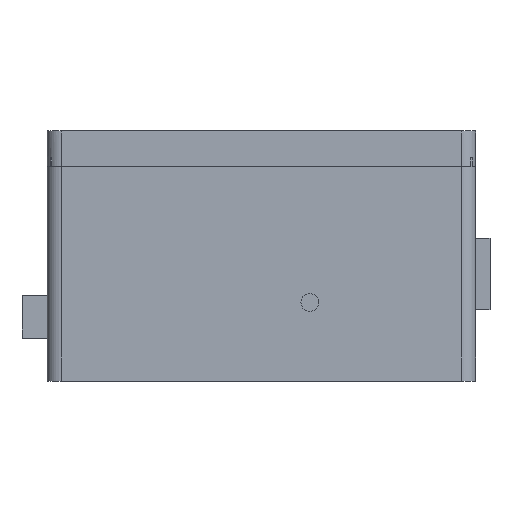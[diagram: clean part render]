
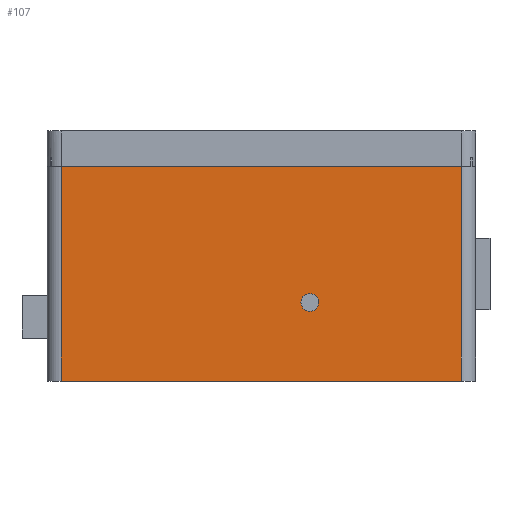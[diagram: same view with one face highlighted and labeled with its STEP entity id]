
A CAD part, left-side view. The second image highlights one B-rep face of the part: STEP entity #107.
In plain terms, the highlighted planar face has unit normal (-1, 0, 0).
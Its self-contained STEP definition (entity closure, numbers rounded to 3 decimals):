
#107 = ADVANCED_FACE('',(#108,#227),#122,.F.);
#108 = FACE_BOUND('',#109,.F.);
#109 = EDGE_LOOP('',(#110,#145,#173,#201));
#110 = ORIENTED_EDGE('',*,*,#111,.F.);
#111 = EDGE_CURVE('',#112,#114,#116,.T.);
#112 = VERTEX_POINT('',#113);
#113 = CARTESIAN_POINT('',(-110.,-56.,60.));
#114 = VERTEX_POINT('',#115);
#115 = CARTESIAN_POINT('',(-110.,56.,60.));
#116 = SURFACE_CURVE('',#117,(#121,#133),.PCURVE_S1.);
#117 = LINE('',#118,#119);
#118 = CARTESIAN_POINT('',(-110.,-60.,60.));
#119 = VECTOR('',#120,1.);
#120 = DIRECTION('',(0.,1.,0.));
#121 = PCURVE('',#122,#127);
#122 = PLANE('',#123);
#123 = AXIS2_PLACEMENT_3D('',#124,#125,#126);
#124 = CARTESIAN_POINT('',(-110.,-60.,0.));
#125 = DIRECTION('',(1.,0.,0.));
#126 = DIRECTION('',(0.,0.,1.));
#127 = DEFINITIONAL_REPRESENTATION('',(#128),#132);
#128 = LINE('',#129,#130);
#129 = CARTESIAN_POINT('',(60.,0.));
#130 = VECTOR('',#131,1.);
#131 = DIRECTION('',(0.,-1.));
#132 = ( GEOMETRIC_REPRESENTATION_CONTEXT(2) 
PARAMETRIC_REPRESENTATION_CONTEXT() REPRESENTATION_CONTEXT('2D SPACE',''
  ) );
#133 = PCURVE('',#134,#139);
#134 = PLANE('',#135);
#135 = AXIS2_PLACEMENT_3D('',#136,#137,#138);
#136 = CARTESIAN_POINT('',(-110.,-60.,60.));
#137 = DIRECTION('',(0.,0.,1.));
#138 = DIRECTION('',(1.,0.,0.));
#139 = DEFINITIONAL_REPRESENTATION('',(#140),#144);
#140 = LINE('',#141,#142);
#141 = CARTESIAN_POINT('',(0.,0.));
#142 = VECTOR('',#143,1.);
#143 = DIRECTION('',(0.,1.));
#144 = ( GEOMETRIC_REPRESENTATION_CONTEXT(2) 
PARAMETRIC_REPRESENTATION_CONTEXT() REPRESENTATION_CONTEXT('2D SPACE',''
  ) );
#145 = ORIENTED_EDGE('',*,*,#146,.F.);
#146 = EDGE_CURVE('',#147,#112,#149,.T.);
#147 = VERTEX_POINT('',#148);
#148 = CARTESIAN_POINT('',(-110.,-56.,0.));
#149 = SURFACE_CURVE('',#150,(#154,#161),.PCURVE_S1.);
#150 = LINE('',#151,#152);
#151 = CARTESIAN_POINT('',(-110.,-56.,0.));
#152 = VECTOR('',#153,1.);
#153 = DIRECTION('',(0.,0.,1.));
#154 = PCURVE('',#122,#155);
#155 = DEFINITIONAL_REPRESENTATION('',(#156),#160);
#156 = LINE('',#157,#158);
#157 = CARTESIAN_POINT('',(0.,-4.));
#158 = VECTOR('',#159,1.);
#159 = DIRECTION('',(1.,0.));
#160 = ( GEOMETRIC_REPRESENTATION_CONTEXT(2) 
PARAMETRIC_REPRESENTATION_CONTEXT() REPRESENTATION_CONTEXT('2D SPACE',''
  ) );
#161 = PCURVE('',#162,#167);
#162 = CYLINDRICAL_SURFACE('',#163,4.);
#163 = AXIS2_PLACEMENT_3D('',#164,#165,#166);
#164 = CARTESIAN_POINT('',(-106.,-56.,0.));
#165 = DIRECTION('',(0.,0.,1.));
#166 = DIRECTION('',(-1.,-0.,0.));
#167 = DEFINITIONAL_REPRESENTATION('',(#168),#172);
#168 = LINE('',#169,#170);
#169 = CARTESIAN_POINT('',(0.,0.));
#170 = VECTOR('',#171,1.);
#171 = DIRECTION('',(0.,1.));
#172 = ( GEOMETRIC_REPRESENTATION_CONTEXT(2) 
PARAMETRIC_REPRESENTATION_CONTEXT() REPRESENTATION_CONTEXT('2D SPACE',''
  ) );
#173 = ORIENTED_EDGE('',*,*,#174,.T.);
#174 = EDGE_CURVE('',#147,#175,#177,.T.);
#175 = VERTEX_POINT('',#176);
#176 = CARTESIAN_POINT('',(-110.,56.,0.));
#177 = SURFACE_CURVE('',#178,(#182,#189),.PCURVE_S1.);
#178 = LINE('',#179,#180);
#179 = CARTESIAN_POINT('',(-110.,-60.,0.));
#180 = VECTOR('',#181,1.);
#181 = DIRECTION('',(0.,1.,0.));
#182 = PCURVE('',#122,#183);
#183 = DEFINITIONAL_REPRESENTATION('',(#184),#188);
#184 = LINE('',#185,#186);
#185 = CARTESIAN_POINT('',(0.,0.));
#186 = VECTOR('',#187,1.);
#187 = DIRECTION('',(0.,-1.));
#188 = ( GEOMETRIC_REPRESENTATION_CONTEXT(2) 
PARAMETRIC_REPRESENTATION_CONTEXT() REPRESENTATION_CONTEXT('2D SPACE',''
  ) );
#189 = PCURVE('',#190,#195);
#190 = PLANE('',#191);
#191 = AXIS2_PLACEMENT_3D('',#192,#193,#194);
#192 = CARTESIAN_POINT('',(-110.,-60.,0.));
#193 = DIRECTION('',(0.,0.,1.));
#194 = DIRECTION('',(1.,0.,0.));
#195 = DEFINITIONAL_REPRESENTATION('',(#196),#200);
#196 = LINE('',#197,#198);
#197 = CARTESIAN_POINT('',(0.,0.));
#198 = VECTOR('',#199,1.);
#199 = DIRECTION('',(0.,1.));
#200 = ( GEOMETRIC_REPRESENTATION_CONTEXT(2) 
PARAMETRIC_REPRESENTATION_CONTEXT() REPRESENTATION_CONTEXT('2D SPACE',''
  ) );
#201 = ORIENTED_EDGE('',*,*,#202,.T.);
#202 = EDGE_CURVE('',#175,#114,#203,.T.);
#203 = SURFACE_CURVE('',#204,(#208,#215),.PCURVE_S1.);
#204 = LINE('',#205,#206);
#205 = CARTESIAN_POINT('',(-110.,56.,0.));
#206 = VECTOR('',#207,1.);
#207 = DIRECTION('',(0.,0.,1.));
#208 = PCURVE('',#122,#209);
#209 = DEFINITIONAL_REPRESENTATION('',(#210),#214);
#210 = LINE('',#211,#212);
#211 = CARTESIAN_POINT('',(0.,-116.));
#212 = VECTOR('',#213,1.);
#213 = DIRECTION('',(1.,0.));
#214 = ( GEOMETRIC_REPRESENTATION_CONTEXT(2) 
PARAMETRIC_REPRESENTATION_CONTEXT() REPRESENTATION_CONTEXT('2D SPACE',''
  ) );
#215 = PCURVE('',#216,#221);
#216 = CYLINDRICAL_SURFACE('',#217,4.);
#217 = AXIS2_PLACEMENT_3D('',#218,#219,#220);
#218 = CARTESIAN_POINT('',(-106.,56.,0.));
#219 = DIRECTION('',(0.,0.,1.));
#220 = DIRECTION('',(-1.,-0.,0.));
#221 = DEFINITIONAL_REPRESENTATION('',(#222),#226);
#222 = LINE('',#223,#224);
#223 = CARTESIAN_POINT('',(-0.,0.));
#224 = VECTOR('',#225,1.);
#225 = DIRECTION('',(-0.,1.));
#226 = ( GEOMETRIC_REPRESENTATION_CONTEXT(2) 
PARAMETRIC_REPRESENTATION_CONTEXT() REPRESENTATION_CONTEXT('2D SPACE',''
  ) );
#227 = FACE_BOUND('',#228,.F.);
#228 = EDGE_LOOP('',(#229));
#229 = ORIENTED_EDGE('',*,*,#230,.F.);
#230 = EDGE_CURVE('',#231,#231,#233,.T.);
#231 = VERTEX_POINT('',#232);
#232 = CARTESIAN_POINT('',(-110.,-13.57,24.5));
#233 = SURFACE_CURVE('',#234,(#239,#246),.PCURVE_S1.);
#234 = CIRCLE('',#235,2.5);
#235 = AXIS2_PLACEMENT_3D('',#236,#237,#238);
#236 = CARTESIAN_POINT('',(-110.,-13.57,22.));
#237 = DIRECTION('',(1.,0.,0.));
#238 = DIRECTION('',(-0.,0.,1.));
#239 = PCURVE('',#122,#240);
#240 = DEFINITIONAL_REPRESENTATION('',(#241),#245);
#241 = CIRCLE('',#242,2.5);
#242 = AXIS2_PLACEMENT_2D('',#243,#244);
#243 = CARTESIAN_POINT('',(22.,-46.43));
#244 = DIRECTION('',(1.,0.));
#245 = ( GEOMETRIC_REPRESENTATION_CONTEXT(2) 
PARAMETRIC_REPRESENTATION_CONTEXT() REPRESENTATION_CONTEXT('2D SPACE',''
  ) );
#246 = PCURVE('',#247,#252);
#247 = CYLINDRICAL_SURFACE('',#248,2.5);
#248 = AXIS2_PLACEMENT_3D('',#249,#250,#251);
#249 = CARTESIAN_POINT('',(-110.,-13.57,22.));
#250 = DIRECTION('',(1.,0.,0.));
#251 = DIRECTION('',(-0.,0.,1.));
#252 = DEFINITIONAL_REPRESENTATION('',(#253),#257);
#253 = LINE('',#254,#255);
#254 = CARTESIAN_POINT('',(0.,0.));
#255 = VECTOR('',#256,1.);
#256 = DIRECTION('',(1.,0.));
#257 = ( GEOMETRIC_REPRESENTATION_CONTEXT(2) 
PARAMETRIC_REPRESENTATION_CONTEXT() REPRESENTATION_CONTEXT('2D SPACE',''
  ) );
